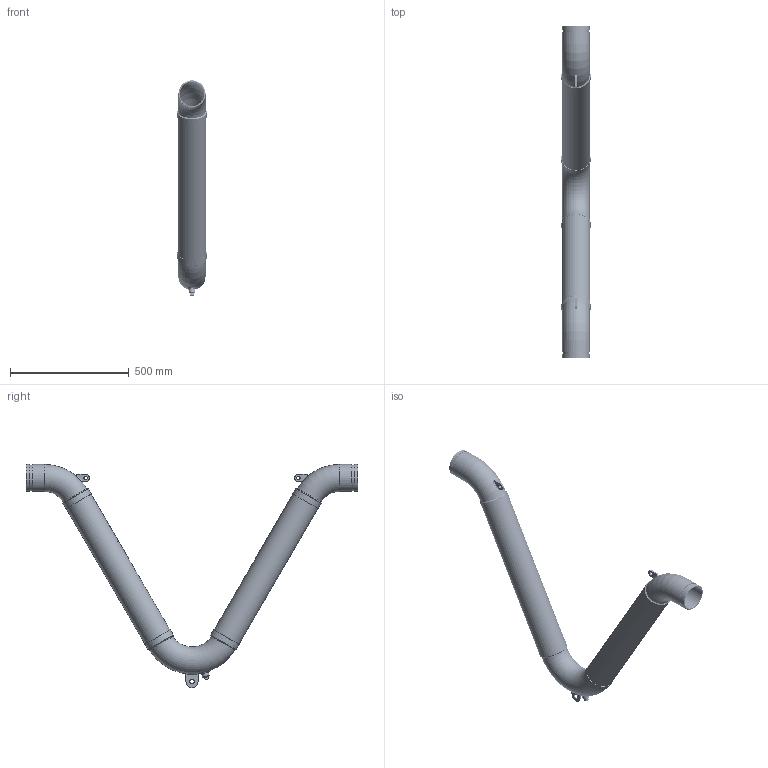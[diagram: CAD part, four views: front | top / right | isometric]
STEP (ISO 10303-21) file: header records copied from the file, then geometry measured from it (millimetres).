
FILE_DESCRIPTION((''),'2;1');
FILE_NAME('\\Mleuckt7400\cad-proe_solids2\WEBSITE FILES 05.22.13\STEP\VGWN\VGWN-4.stp','2013-07-23T09:59:42',('rramoutar'),(''),'Autodesk Inventor 2012','Autodesk Inventor 2012','');
FILE_SCHEMA(('AUTOMOTIVE_DESIGN { 1 0 10303 214 1 1 1 1 }'));
Length unit declared in the file: inch
Products named in the file (12): A-30590-3 VGN 4 inch.iam (LevelofDetail1); A-30590-3 VGN 4 inch.iam (LevelofDetail1)_Welds; A-30590-3 ELBOW 120 DEG FOR 4 INCH VGN; A-28693-2 SUPORT CLIP VMN,VGN,VFL 3INCH, 4INCH; A-29795-1 CLIP VMN,VGN,VFL 2 TO 4 INCH; A-30713 A36 STEEL COUPLING 0.5 inch; A-30713 A36 STEEL PLUG 0.5 inch; A-30590-3 VGN 4.0 INCH NIPPLE; A-30590-3 ELBOW 60 DEG FOR 4 INCH VGN; A-29781-7 4.0 inch braid collar; A-30590-3 VGN 4 INCH BRAID; A-29781-7 VGN 4.0 inch STAINLESS STEEL HOSE
Assembly tree (19 placements, depth 2):
  A-30590-3 VGN 4 inch.iam (LevelofDetail1)
    A-30590-3 VGN 4 inch.iam (LevelofDetail1)_Welds
    A-30590-3 ELBOW 120 DEG FOR 4 INCH VGN
    A-28693-2 SUPORT CLIP VMN,VGN,VFL 3INCH, 4INCH
    A-29795-1 CLIP VMN,VGN,VFL 2 TO 4 INCH  x2
    A-30713 A36 STEEL COUPLING 0.5 inch
    A-30713 A36 STEEL PLUG 0.5 inch
    A-30590-3 VGN 4.0 INCH NIPPLE  x2
    A-30590-3 ELBOW 60 DEG FOR 4 INCH VGN  x2
    A-29781-7 4.0 inch braid collar  x4
    A-30590-3 VGN 4 INCH BRAID  x2
    A-29781-7 VGN 4.0 inch STAINLESS STEEL HOSE  x2
Bounding box: 123.39 x 1397 x 939.8 mm (x, y, z)
Volume: 2216691.3 mm3; surface area: 4155208.8 mm2
Topology: 26 solids, 26 shells, 1347 faces, 2097 edges, 1399 vertices
Faces by surface type: plane 674, torus 618, cylinder 36, bspline 15, cone 4
Full cylindrical faces by diameter (mm): 14.288 x2, 18.256 x1, 19.05 x1, 21.336 x2, 28.575 x3, 102.26 x2, 107.798 x2, 114.3 x4, 120.142 x2, 120.701 x6, 123.082 x4
Entity records: 21375 total; most frequent: CARTESIAN_POINT 8702, DIRECTION 2825, ORIENTED_EDGE 1566, AXIS2_PLACEMENT_3D 1392, EDGE_LOOP 1364, EDGE_CURVE 783, VERTEX_POINT 739, FACE_OUTER_BOUND 706
